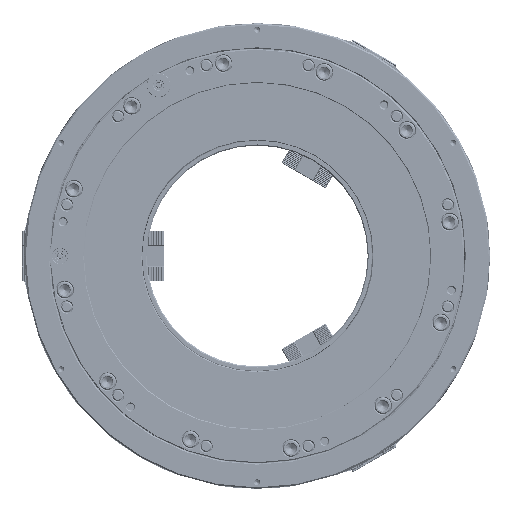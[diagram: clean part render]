
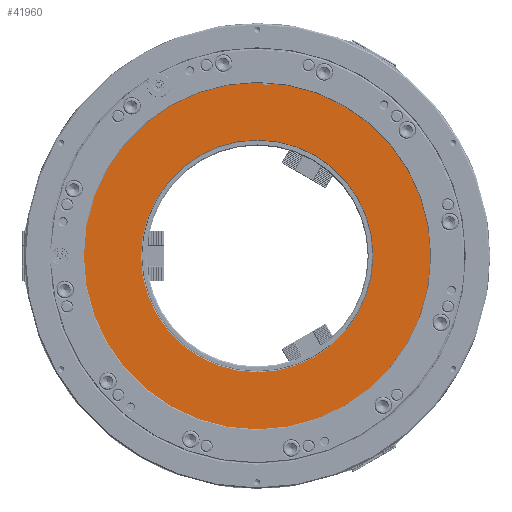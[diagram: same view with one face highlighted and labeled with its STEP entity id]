
A CAD part, left-side view. The second image highlights one B-rep face of the part: STEP entity #41960.
In plain terms, the highlighted planar face has unit normal (-1, 0, 0).
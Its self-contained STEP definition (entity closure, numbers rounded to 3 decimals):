
#7232 = CARTESIAN_POINT ( 'NONE',  ( -275., -18.336, 254.34 ) ) ;
#12665 = CARTESIAN_POINT ( 'NONE',  ( -275., 0., 255. ) ) ;
#14244 = CARTESIAN_POINT ( 'NONE',  ( -275., 5.462, -8.676 ) ) ;
#15333 = CARTESIAN_POINT ( 'NONE',  ( -275., -8.35, 254.863 ) ) ;
#18692 = DIRECTION ( 'NONE',  ( 0., 0., 1. ) ) ;
#23302 = EDGE_LOOP ( 'NONE', ( #99765, #99202 ) ) ;
#26947 = EDGE_CURVE ( 'NONE', #175927, #41702, #283242, .T. ) ;
#39846 = LINE ( 'NONE', #14244, #189631 ) ;
#41702 = VERTEX_POINT ( 'NONE', #15333 ) ;
#41960 = ADVANCED_FACE ( 'NONE', ( #47608, #281217 ), #201139, .T. ) ;
#47608 = FACE_OUTER_BOUND ( 'NONE', #60906, .T. ) ;
#54031 = DIRECTION ( 'NONE',  ( 0., 0., -1. ) ) ;
#60906 = EDGE_LOOP ( 'NONE', ( #303335, #266593, #179625, #131289, #128931, #98155 ) ) ;
#61867 = EDGE_CURVE ( 'NONE', #74648, #328379, #140428, .T. ) ;
#63030 = CARTESIAN_POINT ( 'NONE',  ( -275., 0., -255. ) ) ;
#71543 = DIRECTION ( 'NONE',  ( -1., 0., 0. ) ) ;
#74648 = VERTEX_POINT ( 'NONE', #176947 ) ;
#90549 = DIRECTION ( 'NONE',  ( 0., -0.052, 0.999 ) ) ;
#91017 = EDGE_CURVE ( 'NONE', #144885, #175927, #145281, .T. ) ;
#96045 = DIRECTION ( 'NONE',  ( 0., -0.999, -0.052 ) ) ;
#98155 = ORIENTED_EDGE ( 'NONE', *, *, #324443, .F. ) ;
#99202 = ORIENTED_EDGE ( 'NONE', *, *, #227146, .T. ) ;
#99765 = ORIENTED_EDGE ( 'NONE', *, *, #295101, .T. ) ;
#108610 = CARTESIAN_POINT ( 'NONE',  ( -275., 0., 171. ) ) ;
#110557 = DIRECTION ( 'NONE',  ( 0., 0., -1. ) ) ;
#128931 = ORIENTED_EDGE ( 'NONE', *, *, #91017, .F. ) ;
#131289 = ORIENTED_EDGE ( 'NONE', *, *, #26947, .F. ) ;
#134416 = DIRECTION ( 'NONE',  ( 1., 0., 0. ) ) ;
#136636 = LINE ( 'NONE', #192876, #301348 ) ;
#139666 = AXIS2_PLACEMENT_3D ( 'NONE', #275775, #330348, #171778 ) ;
#140428 = LINE ( 'NONE', #220598, #208998 ) ;
#144885 = VERTEX_POINT ( 'NONE', #63030 ) ;
#145281 = CIRCLE ( 'NONE', #139666, 255. ) ;
#146769 = CIRCLE ( 'NONE', #293889, 171. ) ;
#152963 = CARTESIAN_POINT ( 'NONE',  ( -275., 0., 0. ) ) ;
#156551 = VERTEX_POINT ( 'NONE', #241896 ) ;
#171778 = DIRECTION ( 'NONE',  ( 0., 0., -1. ) ) ;
#175927 = VERTEX_POINT ( 'NONE', #12665 ) ;
#176947 = CARTESIAN_POINT ( 'NONE',  ( -275., -8.222, 252.416 ) ) ;
#177522 = EDGE_CURVE ( 'NONE', #41702, #74648, #39846, .T. ) ;
#179208 = CARTESIAN_POINT ( 'NONE',  ( -275., 0., 0. ) ) ;
#179625 = ORIENTED_EDGE ( 'NONE', *, *, #177522, .F. ) ;
#189631 = VECTOR ( 'NONE', #326327, 1000. ) ;
#192876 = CARTESIAN_POINT ( 'NONE',  ( -275., -4.525, -9.199 ) ) ;
#195784 = CARTESIAN_POINT ( 'NONE',  ( -275., -18.208, 251.892 ) ) ;
#198562 = EDGE_CURVE ( 'NONE', #328379, #253820, #136636, .T. ) ;
#201139 = PLANE ( 'NONE',  #325855 ) ;
#208998 = VECTOR ( 'NONE', #96045, 1000. ) ;
#210285 = AXIS2_PLACEMENT_3D ( 'NONE', #293074, #134416, #110557 ) ;
#217130 = DIRECTION ( 'NONE',  ( 0., 0., -1. ) ) ;
#220598 = CARTESIAN_POINT ( 'NONE',  ( -275., 157.317, 261.091 ) ) ;
#227146 = EDGE_CURVE ( 'NONE', #156551, #234185, #294934, .T. ) ;
#231974 = CIRCLE ( 'NONE', #210285, 255. ) ;
#234185 = VERTEX_POINT ( 'NONE', #108610 ) ;
#241896 = CARTESIAN_POINT ( 'NONE',  ( -275., 0., -171. ) ) ;
#245947 = AXIS2_PLACEMENT_3D ( 'NONE', #179208, #276505, #331102 ) ;
#253820 = VERTEX_POINT ( 'NONE', #7232 ) ;
#265376 = DIRECTION ( 'NONE',  ( 1., 0., 0. ) ) ;
#266593 = ORIENTED_EDGE ( 'NONE', *, *, #61867, .F. ) ;
#275775 = CARTESIAN_POINT ( 'NONE',  ( -275., 0., 0. ) ) ;
#276505 = DIRECTION ( 'NONE',  ( 1., 0., 0. ) ) ;
#281217 = FACE_BOUND ( 'NONE', #23302, .T. ) ;
#283242 = CIRCLE ( 'NONE', #326811, 255. ) ;
#285993 = CARTESIAN_POINT ( 'NONE',  ( -275., 0., 0. ) ) ;
#293074 = CARTESIAN_POINT ( 'NONE',  ( -275., 0., 0. ) ) ;
#293889 = AXIS2_PLACEMENT_3D ( 'NONE', #285993, #265376, #54031 ) ;
#294934 = CIRCLE ( 'NONE', #245947, 171. ) ;
#295101 = EDGE_CURVE ( 'NONE', #234185, #156551, #146769, .T. ) ;
#301348 = VECTOR ( 'NONE', #90549, 1000. ) ;
#303335 = ORIENTED_EDGE ( 'NONE', *, *, #198562, .F. ) ;
#305214 = CARTESIAN_POINT ( 'NONE',  ( -275., 171., 0. ) ) ;
#313263 = DIRECTION ( 'NONE',  ( 1., 0., 0. ) ) ;
#324443 = EDGE_CURVE ( 'NONE', #253820, #144885, #231974, .T. ) ;
#325855 = AXIS2_PLACEMENT_3D ( 'NONE', #305214, #71543, #18692 ) ;
#326327 = DIRECTION ( 'NONE',  ( 0., 0.052, -0.999 ) ) ;
#326811 = AXIS2_PLACEMENT_3D ( 'NONE', #152963, #313263, #217130 ) ;
#328379 = VERTEX_POINT ( 'NONE', #195784 ) ;
#330348 = DIRECTION ( 'NONE',  ( 1., 0., 0. ) ) ;
#331102 = DIRECTION ( 'NONE',  ( 0., 0., -1. ) ) ;
